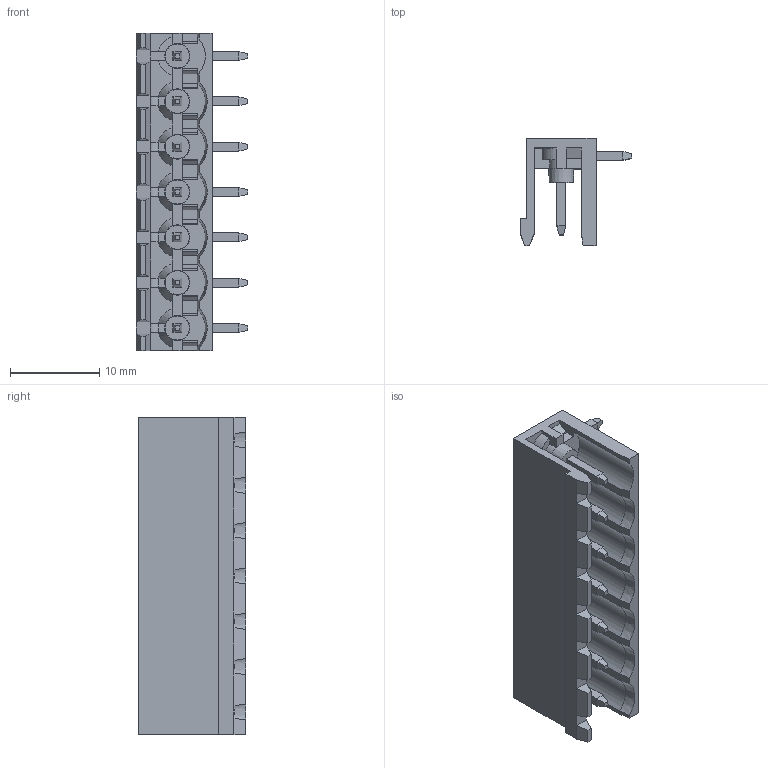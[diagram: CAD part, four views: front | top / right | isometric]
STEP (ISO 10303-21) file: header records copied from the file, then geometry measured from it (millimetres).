
FILE_DESCRIPTION (( 'STEP AP203' ), '1' );
FILE_NAME ('BR8MN1-07.STEP', '2020-03-18T03:21:46', ( '' ), ( '' ), 'SwSTEP 2.0', 'SolidWorks 2019', '' );
FILE_SCHEMA (( 'CONFIG_CONTROL_DESIGN' ));
Length unit declared in the file: millimetre
Products named in the file (1): BR8MN1-07
Bounding box: 12.5 x 12 x 35.56 mm (x, y, z)
Volume: 1360 mm3; surface area: 3074.2 mm2
Topology: 1 solids, 1 shells, 600 faces, 1566 edges, 968 vertices
Faces by surface type: plane 518, cylinder 36, cone 32, sphere 14
Entity records: 17888 total; most frequent: CARTESIAN_POINT 3387, ORIENTED_EDGE 3076, DIRECTION 2817, EDGE_CURVE 1538, LINE 1321, VECTOR 1321, VERTEX_POINT 954, AXIS2_PLACEMENT_3D 748
